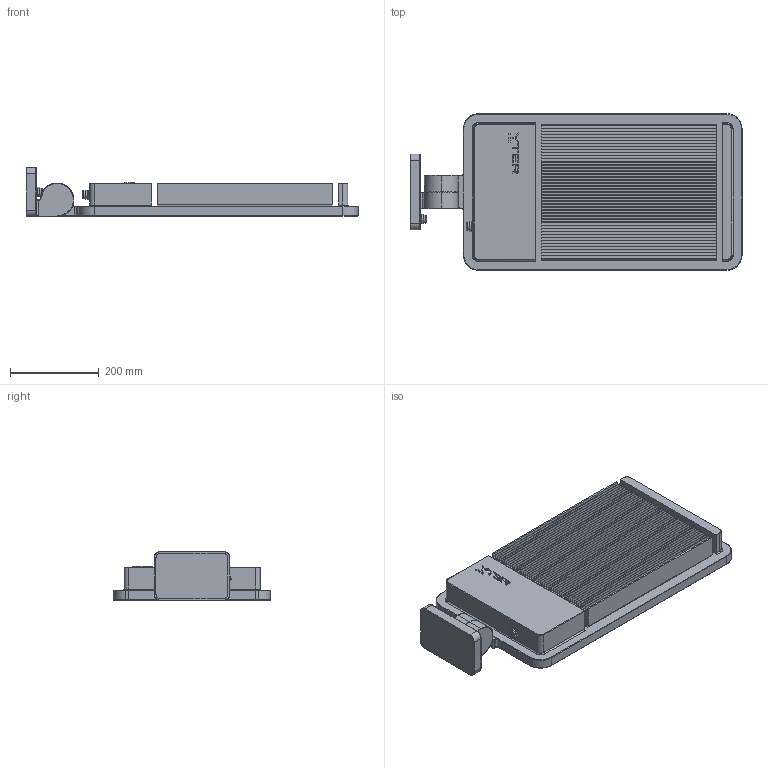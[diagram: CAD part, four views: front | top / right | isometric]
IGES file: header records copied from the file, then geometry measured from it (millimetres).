
Global section: file name: S:\0 YTER LED 2016\3D\Yter\Versi; native system: Rhinoceros ( Mar 28 2013 ); preprocessor: Trout Lake IGES 012 Mar 28 2013; author: YTER LED; organization: 17HYter Nexus; date: 160601.154948; units: millimetre
Bounding box: 747.1 x 352 x 110 mm (x, y, z)
Surface area: 1595404.8 mm2 (no closed solid volume)
Topology: 0 solids, 0 shells, 679 faces, 8158 edges, 8150 vertices
Faces by surface type: bspline 679
